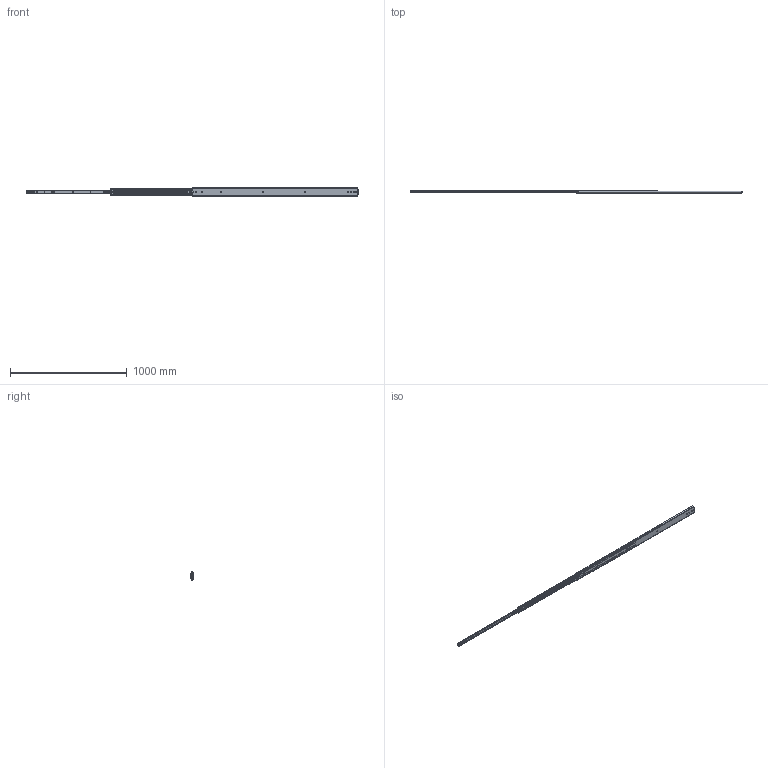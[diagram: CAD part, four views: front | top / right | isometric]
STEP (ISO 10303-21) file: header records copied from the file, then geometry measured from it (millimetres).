
FILE_DESCRIPTION((''),'2;1');
FILE_NAME('DG-76-02-56_ASM','2023-05-15T',('jishu015'),(''),'PRO/ENGINEER BY PARAMETRIC TECHNOLOGY CORPORATION, 2010280','PRO/ENGINEER BY PARAMETRIC TECHNOLOGY CORPORATION, 2010280','');
FILE_SCHEMA(('CONFIG_CONTROL_DESIGN'));
Products named in the file (18): KP-76-04WAIKE3___; 1076-WAIKEZIDANJIAO3___; WAIK72____ASM; 1076XIAOZHUTIAO1___; 163___; 1076XIAOZHUTIAO1____ASM; KP-76-04ZHONGGUI3___; 76CHANGGUIZHONGGUIJIAO3___; 3X6WODIN3___; PJ-76-33___; 76-XIAOZHUJIA3___; GANGZHU-XIAO3___; ZHUJIA-XIAO3____ASM; ZHONGGUI3____ASM; KP-76-04NEIGUI3___; XIN-TANPIAN___; NEIGUI3____ASM; DG-76-02-56_ASM
Assembly tree (98 placements, depth 4):
  DG-76-02-56_ASM
    WAIK72____ASM
      KP-76-04WAIKE3___
      1076-WAIKEZIDANJIAO3___  x2
    1076XIAOZHUTIAO1____ASM  x2
      1076XIAOZHUTIAO1___
      163___
    ZHONGGUI3____ASM
      KP-76-04ZHONGGUI3___
      76CHANGGUIZHONGGUIJIAO3___
      3X6WODIN3___
      PJ-76-33___
      ZHUJIA-XIAO3____ASM
        76-XIAOZHUJIA3___
        GANGZHU-XIAO3___  x54
    NEIGUI3____ASM
      KP-76-04NEIGUI3___
      XIN-TANPIAN___
Bounding box: 2844.8 x 19.5 x 75.3 mm (x, y, z)
Volume: 932935.5 mm3; surface area: 895338.2 mm2
Topology: 120 solids, 120 shells, 2432 faces, 7694 edges, 4827 vertices
Faces by surface type: plane 1319, cylinder 792, sphere 218, extrusion 81, cone 18, bspline 4
Entity records: 72505 total; most frequent: CARTESIAN_POINT 17133, ORIENTED_EDGE 12332, DIRECTION 10729, EDGE_CURVE 6166, VERTEX_POINT 4027, AXIS2_PLACEMENT_3D 3593, VECTOR 3543, LINE 3462
